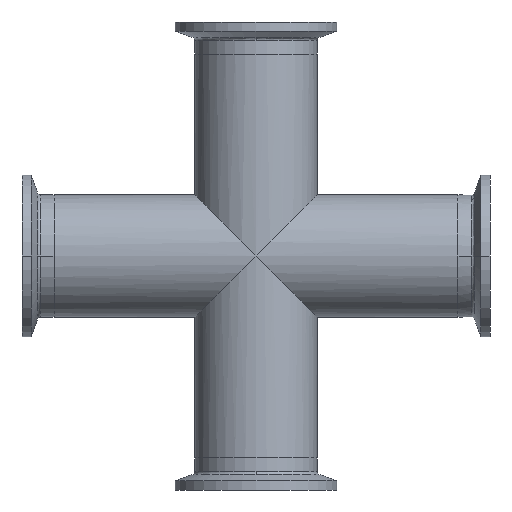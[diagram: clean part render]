
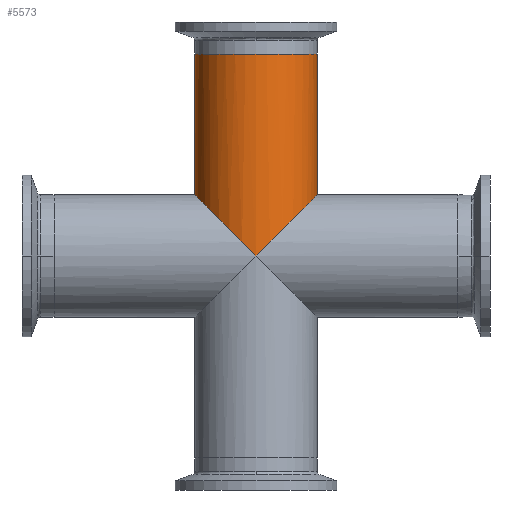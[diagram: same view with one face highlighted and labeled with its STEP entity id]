
A CAD part, front view. The second image highlights one B-rep face of the part: STEP entity #5573.
In plain terms, the highlighted cylindrical face has radius 19.05 mm (diameter 38.1 mm), a partial arc.
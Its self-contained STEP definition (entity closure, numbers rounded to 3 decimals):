
#25 = EDGE_CURVE ( 'NONE', #5946, #2122, #1892, .T. ) ;
#34 = CARTESIAN_POINT ( 'NONE',  ( -19.05, 0., -63.025 ) ) ;
#190 = CIRCLE ( 'NONE', #5821, 19.05 ) ;
#425 = VECTOR ( 'NONE', #1684, 1000. ) ;
#461 = ORIENTED_EDGE ( 'NONE', *, *, #6009, .F. ) ;
#722 = CARTESIAN_POINT ( 'NONE',  ( 0., 0., -63.025 ) ) ;
#816 = VERTEX_POINT ( 'NONE', #2763 ) ;
#934 = CARTESIAN_POINT ( 'NONE',  ( 0., -19.05, 0. ) ) ;
#1231 = DIRECTION ( 'NONE',  ( 0., 0., 1. ) ) ;
#1428 = CARTESIAN_POINT ( 'NONE',  ( 19.05, -11.159, 19.05 ) ) ;
#1540 = ORIENTED_EDGE ( 'NONE', *, *, #1732, .T. ) ;
#1684 = DIRECTION ( 'NONE',  ( 0., 0., 1. ) ) ;
#1732 = EDGE_CURVE ( 'NONE', #816, #3512, #190, .T. ) ;
#1746 = LINE ( 'NONE', #6042, #425 ) ;
#1892 =( BOUNDED_CURVE ( )  B_SPLINE_CURVE ( 3, ( #4150, #4499, #4071, #6145 ),
 .UNSPECIFIED., .F., .F. ) 
 B_SPLINE_CURVE_WITH_KNOTS ( ( 4, 4 ),
 ( 4.712, 6.283 ),
 .UNSPECIFIED. ) 
 CURVE ( )  GEOMETRIC_REPRESENTATION_ITEM ( )  RATIONAL_B_SPLINE_CURVE ( ( 1., 0.805, 0.805, 1. ) ) 
 REPRESENTATION_ITEM ( '' )  );
#2078 = AXIS2_PLACEMENT_3D ( 'NONE', #722, #1231, #2705 ) ;
#2122 = VERTEX_POINT ( 'NONE', #3280 ) ;
#2218 =( BOUNDED_CURVE ( )  B_SPLINE_CURVE ( 3, ( #934, #2395, #1428, #4802 ),
 .UNSPECIFIED., .F., .F. ) 
 B_SPLINE_CURVE_WITH_KNOTS ( ( 4, 4 ),
 ( 4.712, 6.283 ),
 .UNSPECIFIED. ) 
 CURVE ( )  GEOMETRIC_REPRESENTATION_ITEM ( )  RATIONAL_B_SPLINE_CURVE ( ( 1., 0.805, 0.805, 1. ) ) 
 REPRESENTATION_ITEM ( '' )  );
#2221 = EDGE_CURVE ( 'NONE', #5946, #3396, #2218, .T. ) ;
#2251 = ORIENTED_EDGE ( 'NONE', *, *, #2900, .T. ) ;
#2361 = VECTOR ( 'NONE', #4903, 1000. ) ;
#2376 = DIRECTION ( 'NONE',  ( 0., 0., -1. ) ) ;
#2395 = CARTESIAN_POINT ( 'NONE',  ( 11.159, -19.05, 11.159 ) ) ;
#2436 = FACE_OUTER_BOUND ( 'NONE', #5929, .T. ) ;
#2705 = DIRECTION ( 'NONE',  ( 1., 0., 0. ) ) ;
#2763 = CARTESIAN_POINT ( 'NONE',  ( 19.05, 0., 63.025 ) ) ;
#2900 = EDGE_CURVE ( 'NONE', #3396, #816, #1746, .T. ) ;
#3104 = CARTESIAN_POINT ( 'NONE',  ( 19.05, 0., 19.05 ) ) ;
#3280 = CARTESIAN_POINT ( 'NONE',  ( -19.05, 0., 19.05 ) ) ;
#3396 = VERTEX_POINT ( 'NONE', #3104 ) ;
#3512 = VERTEX_POINT ( 'NONE', #3837 ) ;
#3636 = LINE ( 'NONE', #34, #2361 ) ;
#3837 = CARTESIAN_POINT ( 'NONE',  ( -19.05, 0., 63.025 ) ) ;
#4071 = CARTESIAN_POINT ( 'NONE',  ( -19.05, -11.159, 19.05 ) ) ;
#4150 = CARTESIAN_POINT ( 'NONE',  ( 0., -19.05, 0. ) ) ;
#4499 = CARTESIAN_POINT ( 'NONE',  ( -11.159, -19.05, 11.159 ) ) ;
#4802 = CARTESIAN_POINT ( 'NONE',  ( 19.05, 0., 19.05 ) ) ;
#4903 = DIRECTION ( 'NONE',  ( 0., 0., 1. ) ) ;
#5256 = CARTESIAN_POINT ( 'NONE',  ( 0., 0., 63.025 ) ) ;
#5274 = ORIENTED_EDGE ( 'NONE', *, *, #2221, .T. ) ;
#5558 = CARTESIAN_POINT ( 'NONE',  ( 0., -19.05, 0. ) ) ;
#5571 = ORIENTED_EDGE ( 'NONE', *, *, #25, .F. ) ;
#5573 = ADVANCED_FACE ( 'NONE', ( #2436 ), #6144, .T. ) ;
#5764 = DIRECTION ( 'NONE',  ( 1., 0., 0. ) ) ;
#5821 = AXIS2_PLACEMENT_3D ( 'NONE', #5256, #2376, #5764 ) ;
#5929 = EDGE_LOOP ( 'NONE', ( #461, #5571, #5274, #2251, #1540 ) ) ;
#5946 = VERTEX_POINT ( 'NONE', #5558 ) ;
#6009 = EDGE_CURVE ( 'NONE', #2122, #3512, #3636, .T. ) ;
#6042 = CARTESIAN_POINT ( 'NONE',  ( 19.05, 0., -63.025 ) ) ;
#6144 = CYLINDRICAL_SURFACE ( 'NONE', #2078, 19.05 ) ;
#6145 = CARTESIAN_POINT ( 'NONE',  ( -19.05, 0., 19.05 ) ) ;
